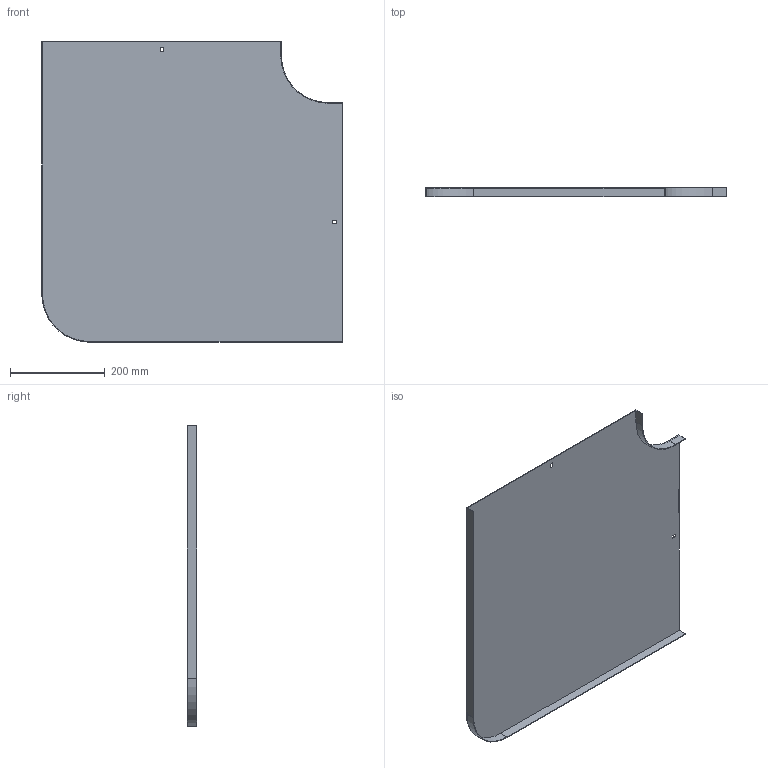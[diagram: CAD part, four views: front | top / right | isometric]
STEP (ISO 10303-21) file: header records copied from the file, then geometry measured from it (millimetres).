
FILE_DESCRIPTION (( 'STEP AP214' ), '1' );
FILE_NAME ('10G1P500.step', '2025-02-21T12:46:40', ( '' ), ( '' ), 'SwSTEP 2.0', 'SolidWorks 2023', '' );
FILE_SCHEMA (( 'AUTOMOTIVE_DESIGN' ));
Length unit declared in the file: millimetre
Products named in the file (1): 10G1P500
Bounding box: 635.5 x 20 x 635.5 mm (x, y, z)
Volume: 620673.3 mm3; surface area: 831452.6 mm2
Topology: 1 solids, 1 shells, 26 faces, 72 edges, 48 vertices
Faces by surface type: plane 22, cylinder 4
Entity records: 855 total; most frequent: CARTESIAN_POINT 147, ORIENTED_EDGE 144, DIRECTION 134, EDGE_CURVE 72, VECTOR 64, LINE 64, VERTEX_POINT 48, AXIS2_PLACEMENT_3D 35
